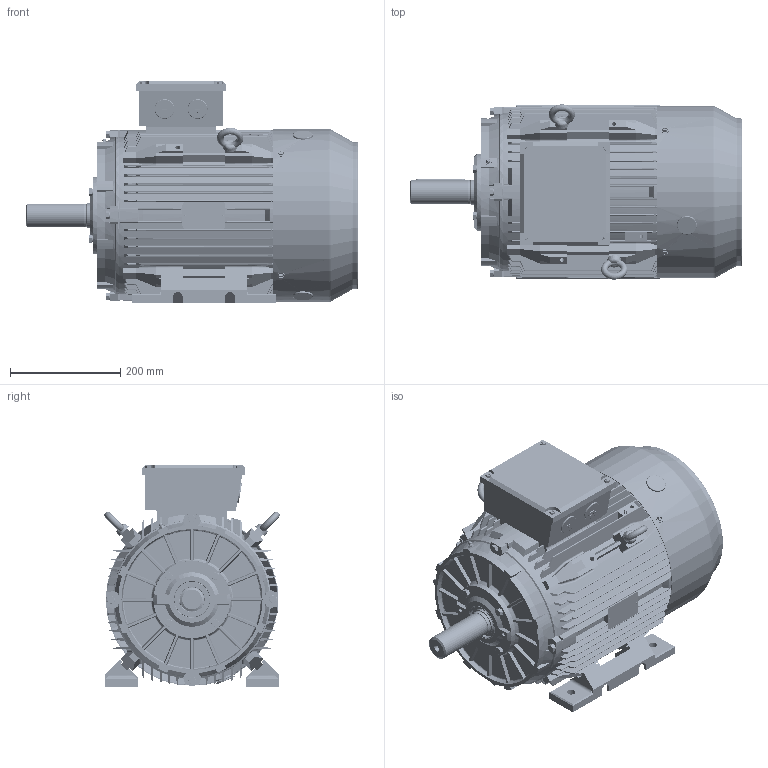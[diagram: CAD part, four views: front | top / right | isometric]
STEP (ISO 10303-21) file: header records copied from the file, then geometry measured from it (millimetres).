
FILE_DESCRIPTION (( 'STEP AP203' ), '1' );
FILE_NAME ('TC 160M B3外形图.STEP', '2012-12-17T02:29:50', ( '微软用户' ), ( '微软中国' ), 'SwSTEP 2.0', 'SolidWorks 2008', '' );
FILE_SCHEMA (( 'CONFIG_CONTROL_DESIGN' ));
Products named in the file (25): TC 160M 机座_默认; TC 160 B3 端盖_默认; 6309_默认; TC 160-180接线盒座_默认; TC 160 风罩_默认; TC 160-180接线盒盖_默认; M8-60_默认; 8_默认; TC 160M B3俋倛芞; TC 160M 底脚_默认; TC 160 轴承外盖NDE_默认; TC 160M 转子_默认; TC 160M 轴_默认; TC 160 轴承外盖DE_默认; TC 160 轴承内盖_默认; 油封45-65-8_默认; IE2 160风叶_默认; 铜油嘴_默认; 扣塞_默认; 螺塞M32_默认; M8-30_默认; M6-20_默认; M6-10_默认; 吊环M10_默认; 平键12-8-90_默认
Assembly tree (52 placements, depth 3):
  TC 160M B3俋倛芞
    TC 160 轴承内盖_默认  x2
    TC 160 B3 端盖_默认  x2
    吊环M10_默认  x2
    扣塞_默认  x2
    M8-30_默认  x4
    8_默认  x8
    M6-20_默认  x4
    M6-10_默认  x4
    TC 160M 底脚_默认  x2
    铜油嘴_默认  x2
    TC 160-180接线盒盖_默认
    螺塞M32_默认  x2
    M8-60_默认  x4
    油封45-65-8_默认  x2
    TC 160 轴承外盖DE_默认
    IE2 160风叶_默认
    TC 160M 机座_默认
    平键12-8-90_默认
    TC 160-180接线盒座_默认
    TC 160 轴承外盖NDE_默认
    TC 160M 转子_默认
      TC 160M 轴_默认
      6309_默认  x2
    TC 160 风罩_默认
Bounding box: 602.5 x 318.13 x 402.74 mm (x, y, z)
Volume: 8371951.2 mm3; surface area: 2686465 mm2
Topology: 53 solids, 54 shells, 6922 faces, 19772 edges, 12950 vertices
Faces by surface type: plane 3346, cylinder 2544, cone 463, torus 392, bspline 125, sphere 52
Entity records: 205612 total; most frequent: CARTESIAN_POINT 51163, ORIENTED_EDGE 32394, DIRECTION 30824, EDGE_CURVE 16197, AXIS2_PLACEMENT_3D 10741, VERTEX_POINT 10677, VECTOR 9342, LINE 9342
